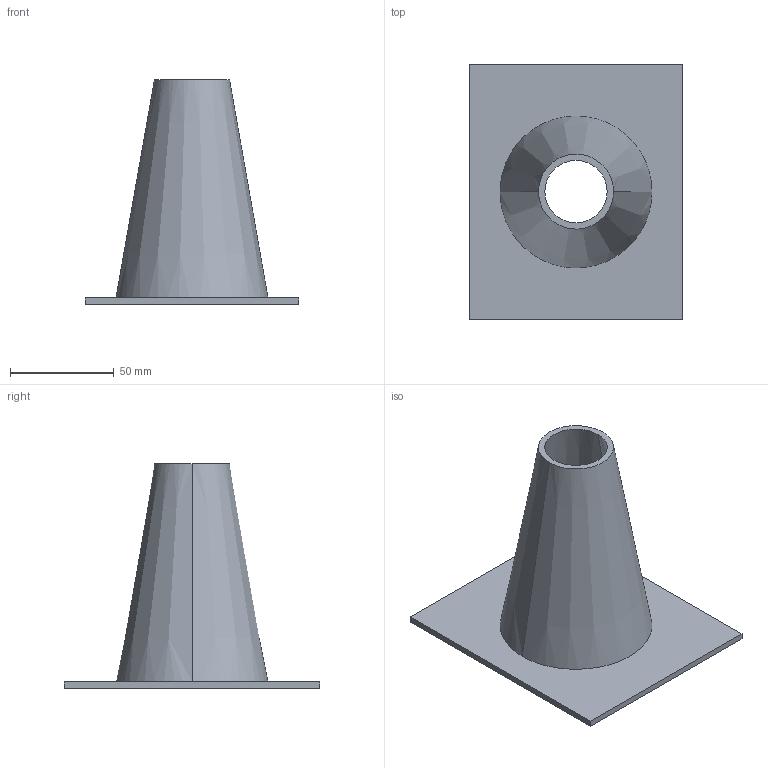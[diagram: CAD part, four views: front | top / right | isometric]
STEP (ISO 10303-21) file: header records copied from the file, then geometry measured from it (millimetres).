
FILE_DESCRIPTION(('CATIA V5 STEP Exchange'),'2;1');
FILE_NAME('C:\_Andres\UNIVERSIDAD\IQS\ASIGNATURAS\DAO\EXF\EXF-15161c\1original\Martínez_Perelló_Ej08-ensambla_v13.stp','2016-03-04T21:37:17+00:00',('none'),('none'),'CATIA Version 5 Release 20 SP 1 (IN-10)','CATIA V5 STEP AP203','none');
FILE_SCHEMA(('CONFIG_CONTROL_DESIGN'));
Length unit declared in the file: millimetre
Products named in the file (1): Martínez_Perelló_Ej08-ensambla_v13
Bounding box: 103 x 123 x 108 mm (x, y, z)
Volume: 79064.4 mm3; surface area: 54357.7 mm2
Topology: 1 solids, 1 shells, 11 faces, 24 edges, 16 vertices
Faces by surface type: plane 7, cone 4
Entity records: 414 total; most frequent: CARTESIAN_POINT 127, ORIENTED_EDGE 48, DIRECTION 44, EDGE_CURVE 24, AXIS2_PLACEMENT_3D 17, VECTOR 16, LINE 16, VERTEX_POINT 16
